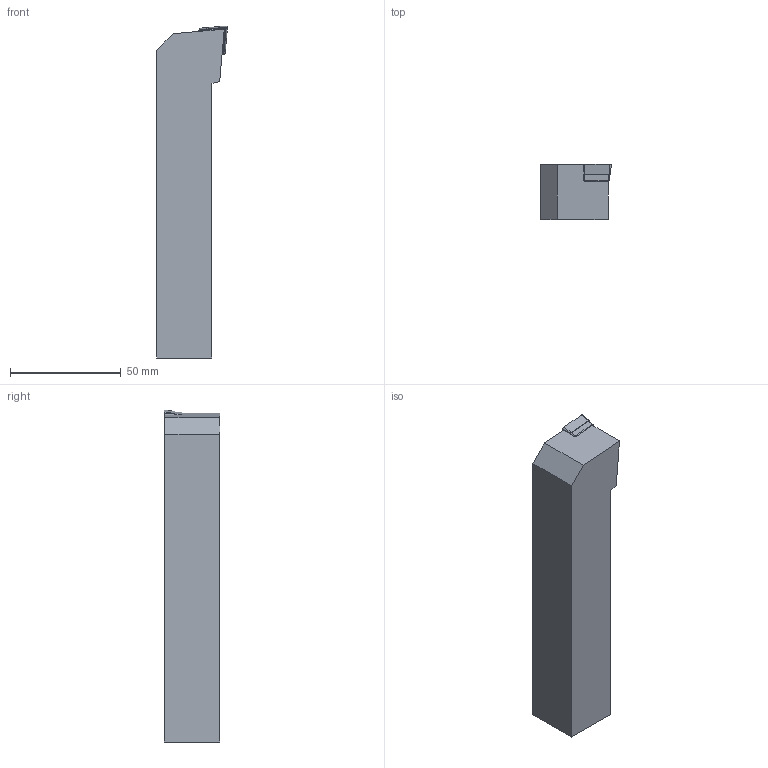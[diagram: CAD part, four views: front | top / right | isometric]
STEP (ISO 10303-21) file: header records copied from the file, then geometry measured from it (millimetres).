
FILE_DESCRIPTION(/* description */ (''),/* implementation_level */ '2;1');
FILE_NAME(/* name */ 'SCLCR2525-M12-HAAS-.stp',/* time_stamp */ '2021-09-28T12:13:34+09:00',/* author */ (''),/* organization */ (''),/* preprocessor_version */ 'ST-DEVELOPER v11',/* originating_system */ 'SIEMENS UGS NX 6.0',/* authorisation */ '');
FILE_SCHEMA (('CONFIG_CONTROL_DESIGN'));
Length unit declared in the file: millimetre
Products named in the file (1): user19614c31
Bounding box: 32 x 25 x 150 mm (x, y, z)
Volume: 94688.7 mm3; surface area: 17200.5 mm2
Topology: 3 solids, 3 shells, 41 faces, 98 edges, 63 vertices
Faces by surface type: plane 27, cone 8, cylinder 6
Full cylindrical faces by diameter (mm): 5.5 x1, 6.4 x1
Entity records: 1242 total; most frequent: DIRECTION 202, CARTESIAN_POINT 197, ORIENTED_EDGE 188, EDGE_CURVE 94, LINE 70, VECTOR 70, AXIS2_PLACEMENT_3D 66, VERTEX_POINT 61
